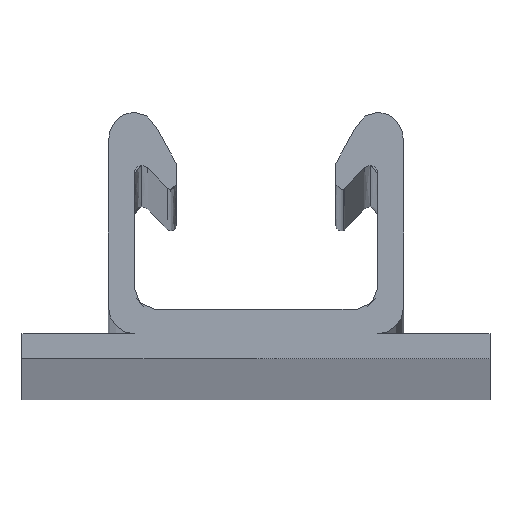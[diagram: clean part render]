
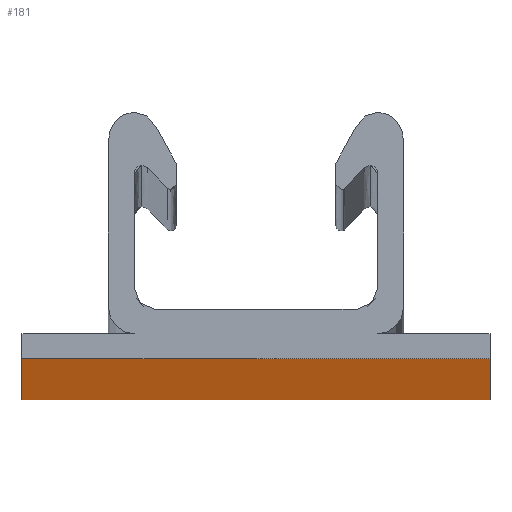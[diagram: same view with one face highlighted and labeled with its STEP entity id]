
A CAD part, top view. The second image highlights one B-rep face of the part: STEP entity #181.
In plain terms, the highlighted planar face has unit normal (0, -1, 0).
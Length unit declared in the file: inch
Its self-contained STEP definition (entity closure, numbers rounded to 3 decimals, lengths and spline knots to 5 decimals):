
#181=ADVANCED_FACE('',(#355),#356,.T.);
#355=FACE_OUTER_BOUND('',#715,.T.);
#356=PLANE('',#716);
#715=EDGE_LOOP('',(#1109,#1110,#1111,#1112));
#716=AXIS2_PLACEMENT_3D('',#1113,#1114,#1115);
#1109=ORIENTED_EDGE('',*,*,#1254,.T.);
#1110=ORIENTED_EDGE('',*,*,#1335,.F.);
#1111=ORIENTED_EDGE('',*,*,#1320,.F.);
#1112=ORIENTED_EDGE('',*,*,#1228,.T.);
#1113=CARTESIAN_POINT('',(1.1875,0.0,0.0));
#1114=DIRECTION('',(0.0,-1.0,0.0));
#1115=DIRECTION('',(1.0,0.0,-0.0));
#1228=EDGE_CURVE('',#1365,#1363,#1366,.T.);
#1254=EDGE_CURVE('',#1363,#1412,#1414,.T.);
#1320=EDGE_CURVE('',#1365,#1514,#1515,.T.);
#1335=EDGE_CURVE('',#1514,#1412,#1536,.T.);
#1363=VERTEX_POINT('',#1564);
#1365=VERTEX_POINT('',#1567);
#1366=LINE('',#1568,#1569);
#1412=VERTEX_POINT('',#1655);
#1414=LINE('',#1658,#1659);
#1514=VERTEX_POINT('',#1839);
#1515=LINE('',#1840,#1841);
#1536=LINE('',#1883,#1884);
#1564=CARTESIAN_POINT('',(2.375,0.0,120.0));
#1567=CARTESIAN_POINT('',(2.375,0.0,0.0));
#1568=CARTESIAN_POINT('',(2.375,0.0,0.0));
#1569=VECTOR('',#1919,1.0);
#1655=CARTESIAN_POINT('',(0.,0.0,120.0));
#1658=CARTESIAN_POINT('',(2.375,0.0,120.0));
#1659=VECTOR('',#1934,1.0);
#1839=CARTESIAN_POINT('',(0.,0.0,0.0));
#1840=CARTESIAN_POINT('',(2.375,0.0,0.0));
#1841=VECTOR('',#1979,1.0);
#1883=CARTESIAN_POINT('',(0.,0.0,0.0));
#1884=VECTOR('',#1986,1.0);
#1919=DIRECTION('',(0.0,0.0,1.0));
#1934=DIRECTION('',(-1.0,0.0,0.0));
#1979=DIRECTION('',(-1.0,0.0,0.0));
#1986=DIRECTION('',(0.0,0.0,1.0));
